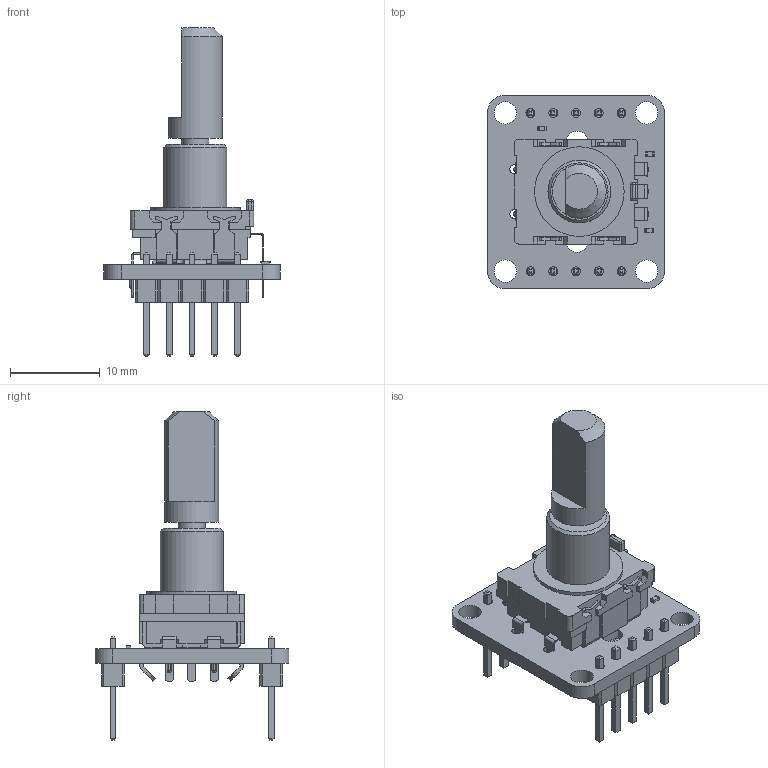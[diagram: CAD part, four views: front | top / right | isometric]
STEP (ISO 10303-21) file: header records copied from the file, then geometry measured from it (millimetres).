
FILE_DESCRIPTION(('KiCad electronic assembly'),'2;1');
FILE_NAME('STP_AXM0003.step','2024-11-12T16:02:52',('Pcbnew'),('Kicad'), 'Open CASCADE STEP processor 7.8','KiCad to STEP converter','Unknown' );
FILE_SCHEMA(('AUTOMOTIVE_DESIGN { 1 0 10303 214 1 1 1 1 }'));
Length unit declared in the file: millimetre
Products named in the file (8): STP_AXM0003 1; Download_STEP_4820xx514001_rev1; 482020714001; R_0402_1005Metric; PinHeader_1x05_P2.54mm_Vertical; PinHeader_1x05_P254mm_Vertical; Rotary_Encoder_PCB
Assembly tree (10 placements, depth 3):
  STP_AXM0003 1
    Download_STEP_4820xx514001_rev1
      482020714001
    R_0402_1005Metric  x3
      R_0402_1005Metric
    PinHeader_1x05_P2.54mm_Vertical  x2
      PinHeader_1x05_P254mm_Vertical
    Rotary_Encoder_PCB
Bounding box: 19.74 x 21.64 x 36.64 mm (x, y, z)
Volume: 2225.2 mm3; surface area: 3057.2 mm2
Topology: 13 solids, 13 shells, 783 faces, 1993 edges, 1274 vertices
Faces by surface type: plane 623, cylinder 138, revolution 8, torus 8, sphere 4, cone 2
Full cylindrical faces by diameter (mm): 1 x15, 2.5 x6, 3 x1, 6 x1, 7 x1, 10 x1
Entity records: 19569 total; most frequent: CARTESIAN_POINT 3292, ORIENTED_EDGE 3114, DIRECTION 3047, EDGE_CURVE 1557, LINE 1265, VECTOR 1265, VERTEX_POINT 1002, AXIS2_PLACEMENT_3D 887
